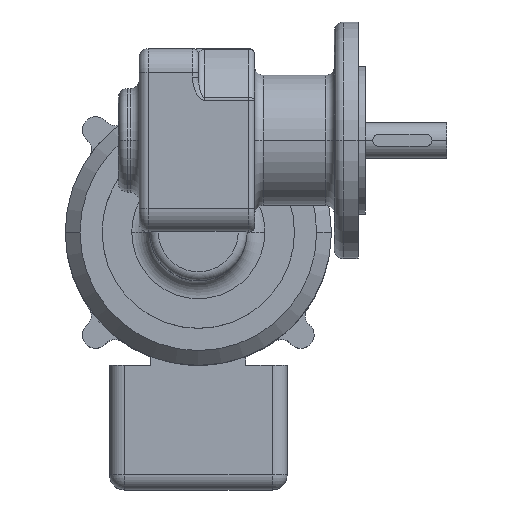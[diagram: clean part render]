
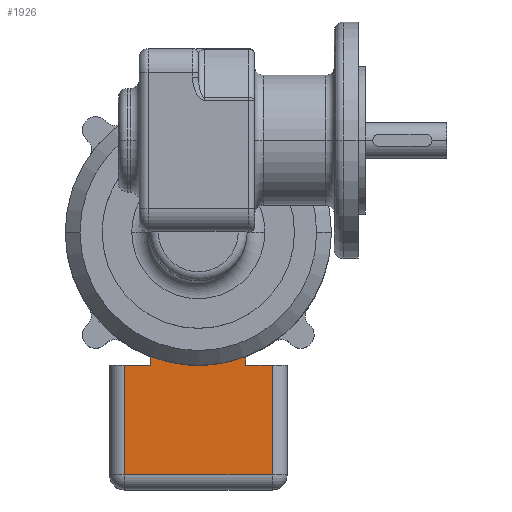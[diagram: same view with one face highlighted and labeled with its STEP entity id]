
A CAD part, top view. The second image highlights one B-rep face of the part: STEP entity #1926.
In plain terms, the highlighted planar face has unit normal (0, 0, 1).
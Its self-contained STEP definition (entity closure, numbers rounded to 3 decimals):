
#1926 = ADVANCED_FACE ( 'NONE', ( #5587 ), #5585, .F. ) ;
#1927 = EDGE_LOOP ( 'NONE', ( #1928, #1983, #1986, #1989, #1991, #1992, #1999, #2002 ) ) ;
#1928 = ORIENTED_EDGE ( 'NONE', *, *, #1980, .T. ) ;
#1980 = EDGE_CURVE ( 'NONE', #1981, #1982, #5691, .T. ) ;
#1981 = VERTEX_POINT ( 'NONE', #5687 ) ;
#1982 = VERTEX_POINT ( 'NONE', #5686 ) ;
#1983 = ORIENTED_EDGE ( 'NONE', *, *, #1984, .T. ) ;
#1984 = EDGE_CURVE ( 'NONE', #1982, #1985, #5685, .T. ) ;
#1985 = VERTEX_POINT ( 'NONE', #5681 ) ;
#1986 = ORIENTED_EDGE ( 'NONE', *, *, #1987, .T. ) ;
#1987 = EDGE_CURVE ( 'NONE', #1985, #1988, #5680, .T. ) ;
#1988 = VERTEX_POINT ( 'NONE', #5676 ) ;
#1989 = ORIENTED_EDGE ( 'NONE', *, *, #1990, .T. ) ;
#1990 = EDGE_CURVE ( 'NONE', #1988, #2245, #5675, .T. ) ;
#1991 = ORIENTED_EDGE ( 'NONE', *, *, #2297, .F. ) ;
#1992 = ORIENTED_EDGE ( 'NONE', *, *, #1993, .F. ) ;
#1993 = EDGE_CURVE ( 'NONE', #1994, #2252, #5732, .T. ) ;
#1994 = VERTEX_POINT ( 'NONE', #5728 ) ;
#1999 = ORIENTED_EDGE ( 'NONE', *, *, #2000, .T. ) ;
#2000 = EDGE_CURVE ( 'NONE', #1994, #2001, #5719, .T. ) ;
#2001 = VERTEX_POINT ( 'NONE', #5715 ) ;
#2002 = ORIENTED_EDGE ( 'NONE', *, *, #2003, .T. ) ;
#2003 = EDGE_CURVE ( 'NONE', #2001, #1981, #5714, .T. ) ;
#2245 = VERTEX_POINT ( 'NONE', #6216 ) ;
#2252 = VERTEX_POINT ( 'NONE', #6271 ) ;
#2297 = EDGE_CURVE ( 'NONE', #2252, #2245, #6316, .T. ) ;
#5581 = DIRECTION ( 'NONE',  ( -1., 0., 0. ) ) ;
#5582 = DIRECTION ( 'NONE',  ( 0., 0., -1. ) ) ;
#5583 = CARTESIAN_POINT ( 'NONE',  ( -15.447, 45.277, -15. ) ) ;
#5584 = AXIS2_PLACEMENT_3D ( 'NONE', #5583, #5582, #5581 ) ;
#5585 = PLANE ( 'NONE',  #5584 ) ;
#5587 = FACE_OUTER_BOUND ( 'NONE', #1927, .T. ) ;
#5675 = LINE ( 'NONE', #5735, #5734 ) ;
#5676 = CARTESIAN_POINT ( 'NONE',  ( -15.447, 45.277, -15. ) ) ;
#5677 = DIRECTION ( 'NONE',  ( 1., 0., 0. ) ) ;
#5678 = VECTOR ( 'NONE', #5677, 1000. ) ;
#5679 = CARTESIAN_POINT ( 'NONE',  ( 30.553, 45.277, -15. ) ) ;
#5680 = LINE ( 'NONE', #5679, #5678 ) ;
#5681 = CARTESIAN_POINT ( 'NONE',  ( -24.447, 45.277, -15. ) ) ;
#5682 = DIRECTION ( 'NONE',  ( 0., -1., 0. ) ) ;
#5683 = VECTOR ( 'NONE', #5682, 1000. ) ;
#5684 = CARTESIAN_POINT ( 'NONE',  ( -24.447, 45.277, -15. ) ) ;
#5685 = LINE ( 'NONE', #5684, #5683 ) ;
#5686 = CARTESIAN_POINT ( 'NONE',  ( -24.447, 82.277, -15. ) ) ;
#5687 = CARTESIAN_POINT ( 'NONE',  ( 25.553, 82.277, -15. ) ) ;
#5688 = DIRECTION ( 'NONE',  ( -1., 0., 0. ) ) ;
#5689 = VECTOR ( 'NONE', #5688, 1000. ) ;
#5690 = CARTESIAN_POINT ( 'NONE',  ( -15.447, 82.277, -15. ) ) ;
#5691 = LINE ( 'NONE', #5690, #5689 ) ;
#5711 = DIRECTION ( 'NONE',  ( 0., 1., 0. ) ) ;
#5712 = VECTOR ( 'NONE', #5711, 1000. ) ;
#5713 = CARTESIAN_POINT ( 'NONE',  ( 25.553, 45.277, -15. ) ) ;
#5714 = LINE ( 'NONE', #5713, #5712 ) ;
#5715 = CARTESIAN_POINT ( 'NONE',  ( 25.553, 45.277, -15. ) ) ;
#5716 = DIRECTION ( 'NONE',  ( 1., 0., 0. ) ) ;
#5717 = VECTOR ( 'NONE', #5716, 1000. ) ;
#5718 = CARTESIAN_POINT ( 'NONE',  ( 30.553, 45.277, -15. ) ) ;
#5719 = LINE ( 'NONE', #5718, #5717 ) ;
#5728 = CARTESIAN_POINT ( 'NONE',  ( 16.553, 45.277, -15. ) ) ;
#5729 = DIRECTION ( 'NONE',  ( 0., -1., 0. ) ) ;
#5730 = VECTOR ( 'NONE', #5729, 1000. ) ;
#5731 = CARTESIAN_POINT ( 'NONE',  ( 16.553, 45.277, -15. ) ) ;
#5732 = LINE ( 'NONE', #5731, #5730 ) ;
#5733 = DIRECTION ( 'NONE',  ( 0., -1., 0. ) ) ;
#5734 = VECTOR ( 'NONE', #5733, 1000. ) ;
#5735 = CARTESIAN_POINT ( 'NONE',  ( -15.447, 45.277, -15. ) ) ;
#6216 = CARTESIAN_POINT ( 'NONE',  ( -15.447, 42.336, -15. ) ) ;
#6271 = CARTESIAN_POINT ( 'NONE',  ( 16.553, 42.336, -15. ) ) ;
#6312 = DIRECTION ( 'NONE',  ( -1., 0., 0. ) ) ;
#6313 = DIRECTION ( 'NONE',  ( 0., 0., 1. ) ) ;
#6314 = CARTESIAN_POINT ( 'NONE',  ( 0.553, 0.277, -15. ) ) ;
#6315 = AXIS2_PLACEMENT_3D ( 'NONE', #6314, #6313, #6312 ) ;
#6316 = CIRCLE ( 'NONE', #6315, 45. ) ;
